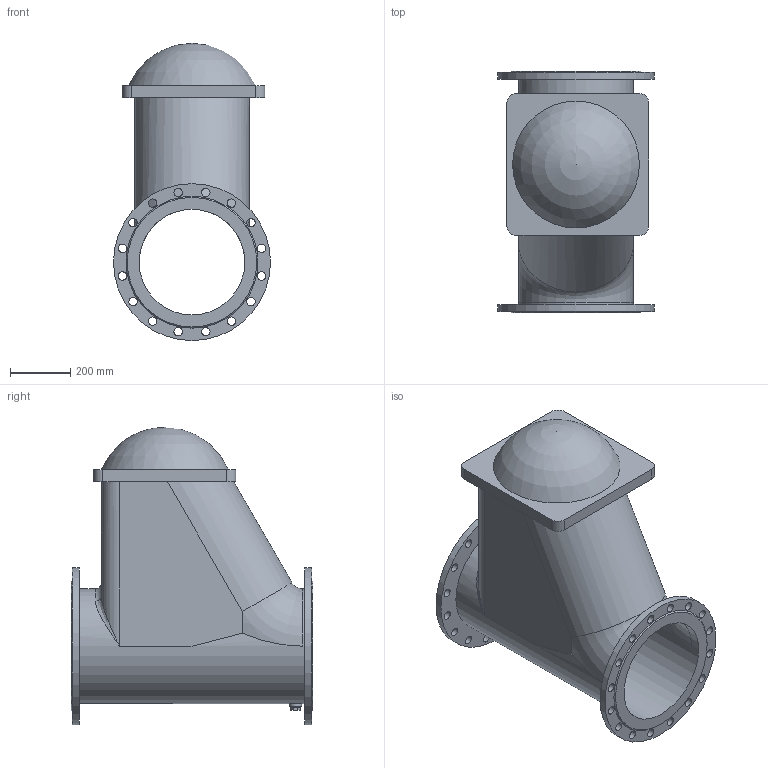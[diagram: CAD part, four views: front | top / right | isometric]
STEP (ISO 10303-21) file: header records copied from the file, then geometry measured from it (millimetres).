
FILE_DESCRIPTION(('STEP AP203'), '1');
FILE_NAME('Êëàïàí îáðàòíûé øàðîâîé ôëàíöåâûé 012F.Z DN350 PN16', '', ('UNSPECIFIED'), ('UNSPECIFIED'), 'ASCON STEP Converter 1.6', 'ASCON Math Kernel', '');
FILE_SCHEMA(('CONFIG_CONTROL_DESIGN'));
Length unit declared in the file: millimetre
Bounding box: 520 x 800 x 985 mm (x, y, z)
Volume: 90648648 mm3; surface area: 3623553.5 mm2
Topology: 1 solids, 1 shells, 87 faces, 227 edges, 148 vertices
Faces by surface type: cylinder 47, plane 32, torus 3, bspline 2, cone 2, sphere 1
Full cylindrical faces by diameter (mm): 28 x32, 32 x1, 40 x1, 350 x1, 380 x1, 520 x2
Entity records: 3770 total; most frequent: CARTESIAN_POINT 915, DIRECTION 431, ORIENTED_EDGE 362, EDGE_LOOP 204, AXIS2_PLACEMENT_3D 187, EDGE_CURVE 181, VERTEX_POINT 147, FACE_BOUND 123
